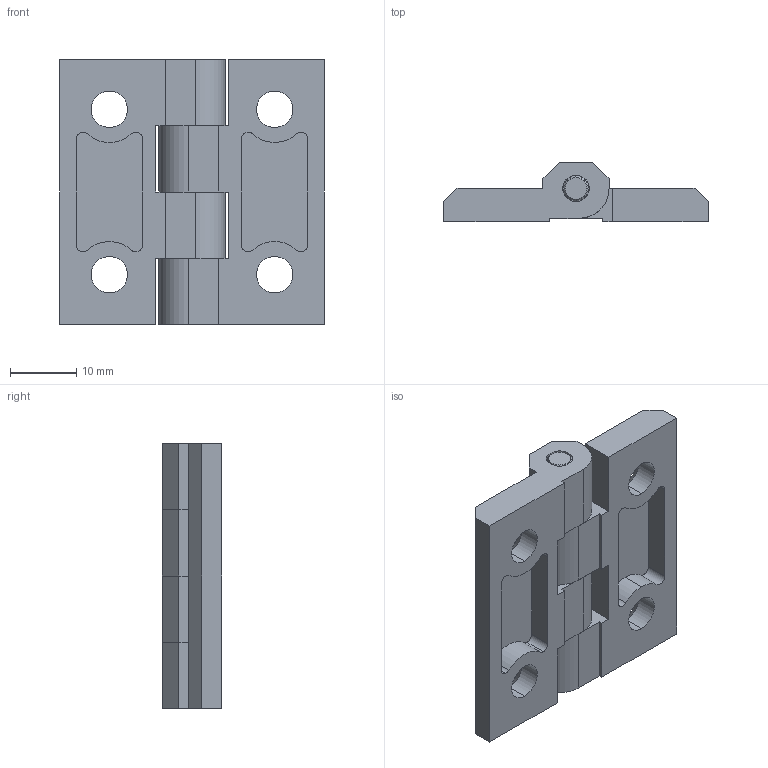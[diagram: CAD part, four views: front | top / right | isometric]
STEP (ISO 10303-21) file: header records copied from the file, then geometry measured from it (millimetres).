
FILE_DESCRIPTION (( 'STEP AP203' ), '1' );
FILE_NAME ('SK2-018B.STEP', '2019-12-27T04:11:22', ( 'admin' ), ( 'Microsoft' ), 'SwSTEP 2.0', 'SolidWorks 2018', '' );
FILE_SCHEMA (( 'CONFIG_CONTROL_DESIGN' ));
Length unit declared in the file: millimetre
Products named in the file (3): SK2-018B-F1; SK2-018B-F2; SK2-018B
Assembly tree (3 placements, depth 2):
  SK2-018B
    SK2-018B-F1  x2
    SK2-018B-F2
Bounding box: 40 x 9 x 40 mm (x, y, z)
Volume: 6975.7 mm3; surface area: 6357 mm2
Topology: 3 solids, 3 shells, 206 faces, 534 edges, 336 vertices
Faces by surface type: plane 154, cylinder 40, cone 12
Entity records: 4999 total; most frequent: CARTESIAN_POINT 943, ORIENTED_EDGE 788, DIRECTION 766, EDGE_CURVE 394, AXIS2_PLACEMENT_3D 259, LINE 248, VECTOR 248, VERTEX_POINT 244
